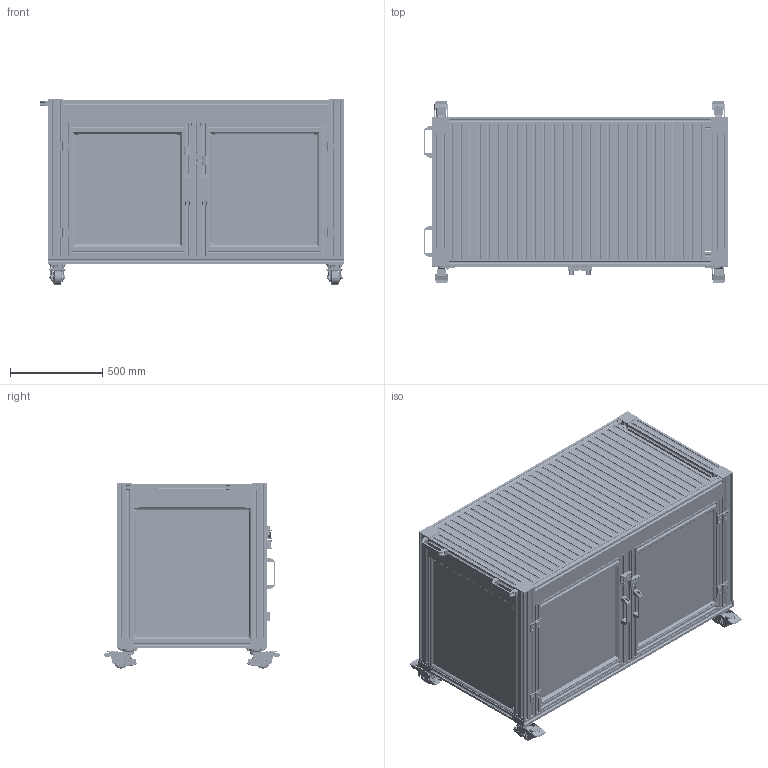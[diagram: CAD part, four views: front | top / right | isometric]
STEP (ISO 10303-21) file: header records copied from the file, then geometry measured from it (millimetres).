
FILE_DESCRIPTION(('STEP AP214'),'1');
FILE_NAME(' - 1600x810x1000 ohne Flanschplatte.stp','2026-06-15T12:03:15',(' '),(' '),'Spatial InterOp 3D',' ',' ');
FILE_SCHEMA(('AUTOMOTIVE_DESIGN { 1 0 10303 214 1 1 1 1 }'));
Length unit declared in the file: millimetre
Products named in the file (914): GUS4651; GUS4650; BLS SKS M6; SKS M6X20 10.9; TIN4506; Rahmen; GUS4501; DOR4501; PIL4040S2N650; PIM4080SNN1600; PIL4080SN2650; PIM8080SN2848,4; PIL4012SNN650; PIL4012SNN1440; PIL2520SNN730; PIL4040S2N728,39; PAN____P_N____ + CAL4515SNN____ + CAN4501; Polycarbonat; CAL4515SNN____; CAN4501; 101419; 101420; PIL4040S2N1440; PIM4040S2N1440; FAS4081_vvm; FAS4080; 101044; 100941; FAS4041_vvm; FAS4040; FAS4041; CAP8081; CAP4081  ; Cobot 1600x810x1000 Ohne Flanschplatte; Tür seitlich 1; DOR4553; DOR4511; 1; PIM4040SNN718,4; CAP4041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
Assembly tree (1026 placements, depth 5):
  Cobot 1600x810x1000 Ohne Flanschplatte
    Rahmen
      GUS4651
        GUS4650
        BLS SKS M6
        SKS M6X20 10.9
        TIN4506
      GUS4651
        GUS4650
        BLS SKS M6
        SKS M6X20 10.9
        TIN4506
      GUS4651
        GUS4650
        BLS SKS M6
        SKS M6X20 10.9
        TIN4506
      GUS4651
        GUS4650
        BLS SKS M6
        SKS M6X20 10.9
        TIN4506
      GUS4501
      GUS4501
      GUS4501
      GUS4501
      GUS4501
      GUS4501
      GUS4501
      GUS4501
      GUS4501
      GUS4501
      GUS4501
      GUS4501
      GUS4501
      GUS4501
      GUS4501
      GUS4501
      GUS4501
      GUS4501
      GUS4501
      GUS4501
      GUS4501
      GUS4501
      GUS4501
      GUS4501
      GUS4501
      GUS4501
      GUS4501
      GUS4501
      DOR4501
      DOR4501
      PIL4040S2N650
      PIM4080SNN1600
      PIL4080SN2650
      PIM4080SNN1600
      PIL4040S2N650
      PIL4040S2N650
      PIL4080SN2650
      PIM8080SN2848,4
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Bounding box: 1651 x 985.47 x 1004.01 mm (x, y, z)
Volume: 68017854.8 mm3; surface area: 25467333.5 mm2
Topology: 943 solids, 943 shells, 16375 faces, 44698 edges, 29165 vertices
Faces by surface type: plane 10379, cylinder 1942, extrusion 1460, sphere 1152, bspline 724, cone 453, torus 265
Full cylindrical faces by diameter (mm): 1 x68, 2.3 x8, 4 x6, 4.3 x3, 5 x14, 5.3 x72, 5.5 x2, 5.6 x16, 6 x64, 6.2 x24, 6.3 x36, 6.5 x12, 7 x43, 7.7 x24, 8 x91, 8.1 x16, 8.4 x12, 8.5 x42, 8.6 x16, 9 x7, 9.293 x4, 9.5 x2, 10 x44, 10.157 x4, 10.4 x4, 10.5 x8, 11.3 x4, 12 x24, 12.3 x8, 12.4 x8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
Entity records: 787493 total; most frequent: CARTESIAN_POINT 255409, ORIENTED_EDGE 79432, DIRECTION 70174, EDGE_CURVE 39716, VECTOR 28124, VERTEX_POINT 27908, LINE 26664, AXIS2_PLACEMENT_3D 21025
